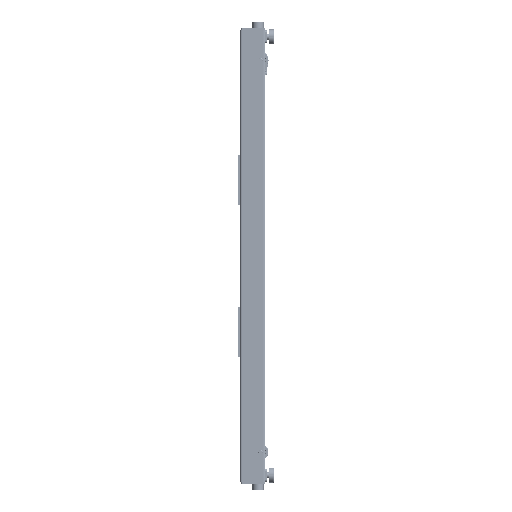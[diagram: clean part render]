
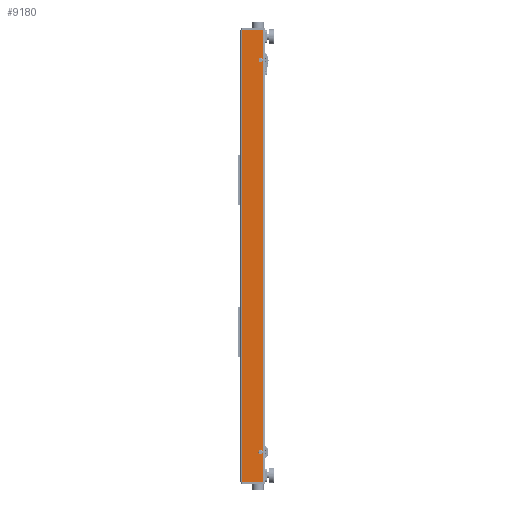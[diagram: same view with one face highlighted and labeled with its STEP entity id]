
A CAD part, left-side view. The second image highlights one B-rep face of the part: STEP entity #9180.
In plain terms, the highlighted planar face has unit normal (-1, 0, 0).
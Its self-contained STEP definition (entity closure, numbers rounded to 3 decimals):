
#3487 = EDGE_CURVE ( 'NONE', #69593, #66478, #28417, .T. ) ;
#7386 = CARTESIAN_POINT ( 'NONE',  ( -12.7, 3.873, 1179.843 ) ) ;
#7577 = CIRCLE ( 'NONE', #68804, 12.51 ) ;
#8111 = CIRCLE ( 'NONE', #88055, 12.51 ) ;
#9180 = ADVANCED_FACE ( 'NONE', ( #122583, #47439, #23200 ), #147601, .F. ) ;
#10583 = VECTOR ( 'NONE', #16616, 1000. ) ;
#16616 = DIRECTION ( 'NONE',  ( 0., 0., -1. ) ) ;
#20533 = CARTESIAN_POINT ( 'NONE',  ( -12.7, 16.383, 1179.843 ) ) ;
#20841 = AXIS2_PLACEMENT_3D ( 'NONE', #83354, #108403, #73311 ) ;
#23200 = FACE_OUTER_BOUND ( 'NONE', #118867, .T. ) ;
#24047 = EDGE_CURVE ( 'NONE', #62712, #66478, #78438, .T. ) ;
#24650 = EDGE_CURVE ( 'NONE', #120769, #154886, #71573, .T. ) ;
#25269 = EDGE_CURVE ( 'NONE', #134524, #48894, #27678, .T. ) ;
#27678 = CIRCLE ( 'NONE', #120982, 12.51 ) ;
#28417 = LINE ( 'NONE', #107669, #134660 ) ;
#31394 = CARTESIAN_POINT ( 'NONE',  ( -12.7, 127., -1360.488 ) ) ;
#43018 = LINE ( 'NONE', #119784, #89793 ) ;
#46193 = DIRECTION ( 'NONE',  ( 0., 1., 0. ) ) ;
#46735 = CARTESIAN_POINT ( 'NONE',  ( -12.7, 28.893, 1179.843 ) ) ;
#47439 = FACE_BOUND ( 'NONE', #147435, .T. ) ;
#47574 = DIRECTION ( 'NONE',  ( 0., 1., 0. ) ) ;
#47660 = EDGE_LOOP ( 'NONE', ( #121030, #150130 ) ) ;
#48894 = VERTEX_POINT ( 'NONE', #118753 ) ;
#49754 = VECTOR ( 'NONE', #147189, 1000. ) ;
#55938 = DIRECTION ( 'NONE',  ( 0., -1., 0. ) ) ;
#58347 = AXIS2_PLACEMENT_3D ( 'NONE', #20533, #110667, #71454 ) ;
#62712 = VERTEX_POINT ( 'NONE', #78426 ) ;
#64220 = CARTESIAN_POINT ( 'NONE',  ( -12.7, 16.383, 1179.843 ) ) ;
#66478 = VERTEX_POINT ( 'NONE', #79780 ) ;
#67430 = ORIENTED_EDGE ( 'NONE', *, *, #24650, .T. ) ;
#68804 = AXIS2_PLACEMENT_3D ( 'NONE', #160523, #161353, #46193 ) ;
#69593 = VERTEX_POINT ( 'NONE', #31394 ) ;
#70437 = LINE ( 'NONE', #121351, #49754 ) ;
#71454 = DIRECTION ( 'NONE',  ( 0., 1., 0. ) ) ;
#71573 = CIRCLE ( 'NONE', #58347, 12.51 ) ;
#73311 = DIRECTION ( 'NONE',  ( 0., 1., 0. ) ) ;
#75798 = CARTESIAN_POINT ( 'NONE',  ( -12.7, 16.383, -1181.113 ) ) ;
#76349 = EDGE_CURVE ( 'NONE', #148615, #62712, #70437, .T. ) ;
#78426 = CARTESIAN_POINT ( 'NONE',  ( -12.7, 0., 1360.488 ) ) ;
#78438 = LINE ( 'NONE', #103451, #10583 ) ;
#79780 = CARTESIAN_POINT ( 'NONE',  ( -12.7, 0., -1360.488 ) ) ;
#83354 = CARTESIAN_POINT ( 'NONE',  ( -12.7, 0., 1360.488 ) ) ;
#88055 = AXIS2_PLACEMENT_3D ( 'NONE', #64220, #124355, #47574 ) ;
#89793 = VECTOR ( 'NONE', #118953, 1000. ) ;
#92483 = CARTESIAN_POINT ( 'NONE',  ( -12.7, 28.893, -1181.113 ) ) ;
#94510 = EDGE_CURVE ( 'NONE', #154886, #120769, #8111, .T. ) ;
#101589 = ORIENTED_EDGE ( 'NONE', *, *, #3487, .T. ) ;
#103451 = CARTESIAN_POINT ( 'NONE',  ( -12.7, 0., 1360.488 ) ) ;
#104674 = EDGE_CURVE ( 'NONE', #148615, #69593, #43018, .T. ) ;
#107669 = CARTESIAN_POINT ( 'NONE',  ( -12.7, 0., -1360.488 ) ) ;
#108403 = DIRECTION ( 'NONE',  ( 1., 0., 0. ) ) ;
#110667 = DIRECTION ( 'NONE',  ( 1., 0., 0. ) ) ;
#118753 = CARTESIAN_POINT ( 'NONE',  ( -12.7, 3.873, -1181.113 ) ) ;
#118867 = EDGE_LOOP ( 'NONE', ( #101589, #150340, #142703, #128520 ) ) ;
#118953 = DIRECTION ( 'NONE',  ( 0., 0., -1. ) ) ;
#119784 = CARTESIAN_POINT ( 'NONE',  ( -12.7, 127., 1360.488 ) ) ;
#120769 = VERTEX_POINT ( 'NONE', #7386 ) ;
#120982 = AXIS2_PLACEMENT_3D ( 'NONE', #75798, #139220, #150922 ) ;
#121030 = ORIENTED_EDGE ( 'NONE', *, *, #25269, .T. ) ;
#121351 = CARTESIAN_POINT ( 'NONE',  ( -12.7, 0., 1360.488 ) ) ;
#122583 = FACE_BOUND ( 'NONE', #47660, .T. ) ;
#124355 = DIRECTION ( 'NONE',  ( 1., 0., 0. ) ) ;
#126744 = EDGE_CURVE ( 'NONE', #48894, #134524, #7577, .T. ) ;
#128520 = ORIENTED_EDGE ( 'NONE', *, *, #104674, .T. ) ;
#130164 = ORIENTED_EDGE ( 'NONE', *, *, #94510, .T. ) ;
#134524 = VERTEX_POINT ( 'NONE', #92483 ) ;
#134660 = VECTOR ( 'NONE', #55938, 1000. ) ;
#139220 = DIRECTION ( 'NONE',  ( 1., 0., 0. ) ) ;
#142703 = ORIENTED_EDGE ( 'NONE', *, *, #76349, .F. ) ;
#147189 = DIRECTION ( 'NONE',  ( 0., -1., 0. ) ) ;
#147435 = EDGE_LOOP ( 'NONE', ( #130164, #67430 ) ) ;
#147601 = PLANE ( 'NONE',  #20841 ) ;
#148615 = VERTEX_POINT ( 'NONE', #160526 ) ;
#150130 = ORIENTED_EDGE ( 'NONE', *, *, #126744, .T. ) ;
#150340 = ORIENTED_EDGE ( 'NONE', *, *, #24047, .F. ) ;
#150922 = DIRECTION ( 'NONE',  ( 0., 1., 0. ) ) ;
#154886 = VERTEX_POINT ( 'NONE', #46735 ) ;
#160523 = CARTESIAN_POINT ( 'NONE',  ( -12.7, 16.383, -1181.113 ) ) ;
#160526 = CARTESIAN_POINT ( 'NONE',  ( -12.7, 127., 1360.488 ) ) ;
#161353 = DIRECTION ( 'NONE',  ( 1., 0., 0. ) ) ;
